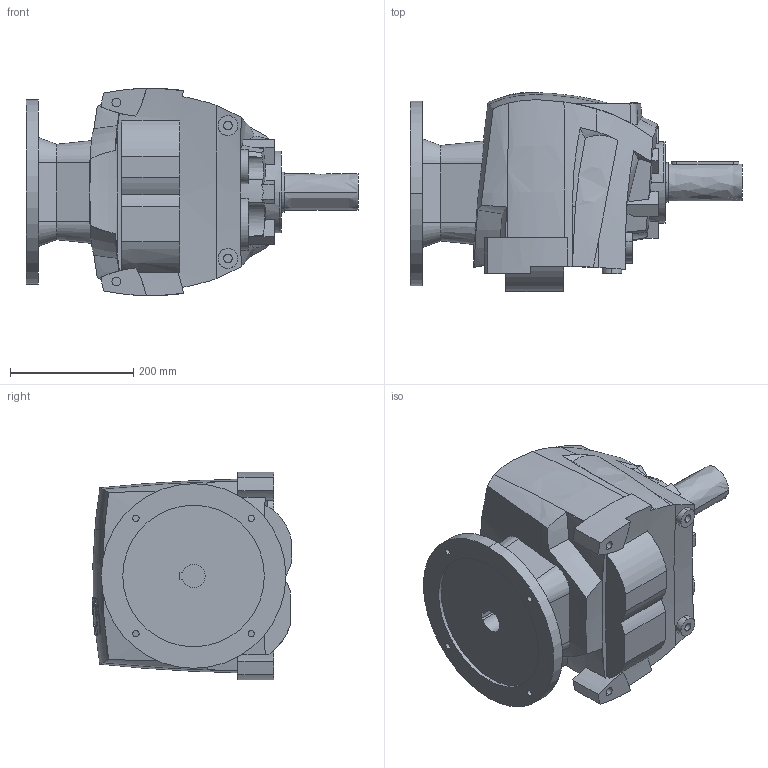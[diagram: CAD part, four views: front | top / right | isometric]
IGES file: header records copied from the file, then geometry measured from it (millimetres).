
Start section:  PTC IGES file: r50_unv_pam132_d2.igs
Global section: file name: r50_unv_pam132_d2.igs; native system: Pro/ENGINEER by Parametric Technology Corporation; preprocessor: 2008230; author: Luca; organization: Unknown; date: 20131218.121426; units: millimetre
Bounding box: 539.5 x 323.71 x 336.87 mm (x, y, z)
Volume: 24487973.5 mm3; surface area: 691019.9 mm2
Topology: 1 solids, 1 shells, 397 faces, 1084 edges, 723 vertices
Faces by surface type: bspline 253, revolution 144
